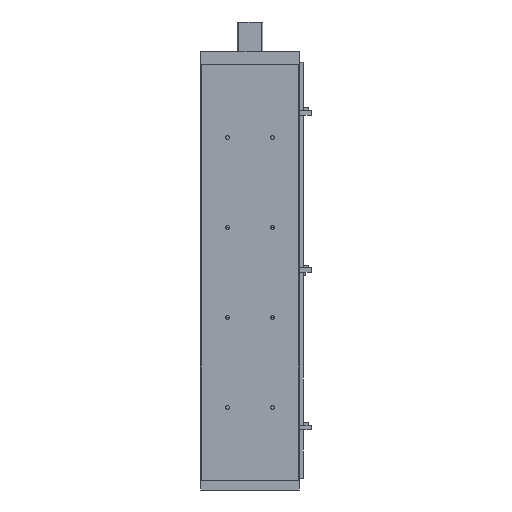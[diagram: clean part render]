
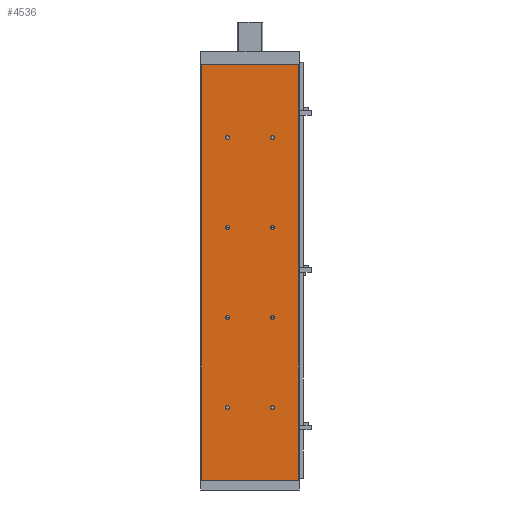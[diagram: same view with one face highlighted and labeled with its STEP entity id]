
A CAD part, front view. The second image highlights one B-rep face of the part: STEP entity #4536.
In plain terms, the highlighted planar face has unit normal (0, -1, 0).
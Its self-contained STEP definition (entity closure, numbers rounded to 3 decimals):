
#3162=CARTESIAN_POINT('',(-107.,0.0,924.0));
#3163=VERTEX_POINT('',#3162);
#3170=CARTESIAN_POINT('',(107.,0.0,924.0));
#3171=VERTEX_POINT('',#3170);
#3172=CARTESIAN_POINT('',(107.,0.0,924.0));
#3173=DIRECTION('',(-1.0,0.0,0.0));
#3174=VECTOR('',#3173,214.);
#3175=LINE('',#3172,#3174);
#3176=EDGE_CURVE('',#3171,#3163,#3175,.T.);
#3506=CARTESIAN_POINT('',(107.,0.0,0.0));
#3507=VERTEX_POINT('',#3506);
#3514=CARTESIAN_POINT('',(-107.,0.0,0.0));
#3515=VERTEX_POINT('',#3514);
#3516=CARTESIAN_POINT('',(-107.,0.0,0.0));
#3517=DIRECTION('',(1.0,0.0,0.0));
#3518=VECTOR('',#3517,214.);
#3519=LINE('',#3516,#3518);
#3520=EDGE_CURVE('',#3515,#3507,#3519,.T.);
#3557=CARTESIAN_POINT('',(-54.249,0.0,762.));
#3558=VERTEX_POINT('',#3557);
#3559=CARTESIAN_POINT('',(-49.999,0.0,762.));
#3560=DIRECTION('',(0.0,1.0,0.0));
#3561=DIRECTION('',(1.0,0.0,0.0));
#3562=AXIS2_PLACEMENT_3D('',#3559,#3560,#3561);
#3563=CIRCLE('',#3562,4.25);
#3564=EDGE_CURVE('',#3558,#3558,#3563,.T.);
#3736=CARTESIAN_POINT('',(45.751,0.0,762.));
#3737=VERTEX_POINT('',#3736);
#3738=CARTESIAN_POINT('',(50.001,0.0,762.));
#3739=DIRECTION('',(0.0,1.0,0.0));
#3740=DIRECTION('',(1.0,0.0,0.0));
#3741=AXIS2_PLACEMENT_3D('',#3738,#3739,#3740);
#3742=CIRCLE('',#3741,4.25);
#3743=EDGE_CURVE('',#3737,#3737,#3742,.T.);
#3777=CARTESIAN_POINT('',(-54.249,0.0,362.));
#3778=VERTEX_POINT('',#3777);
#3779=CARTESIAN_POINT('',(-49.999,0.0,362.));
#3780=DIRECTION('',(0.0,1.0,0.0));
#3781=DIRECTION('',(1.0,0.0,0.0));
#3782=AXIS2_PLACEMENT_3D('',#3779,#3780,#3781);
#3783=CIRCLE('',#3782,4.25);
#3784=EDGE_CURVE('',#3778,#3778,#3783,.T.);
#3956=CARTESIAN_POINT('',(45.751,0.0,362.));
#3957=VERTEX_POINT('',#3956);
#3958=CARTESIAN_POINT('',(50.001,0.0,362.));
#3959=DIRECTION('',(0.0,1.0,0.0));
#3960=DIRECTION('',(1.0,0.0,0.0));
#3961=AXIS2_PLACEMENT_3D('',#3958,#3959,#3960);
#3962=CIRCLE('',#3961,4.25);
#3963=EDGE_CURVE('',#3957,#3957,#3962,.T.);
#3997=CARTESIAN_POINT('',(-54.249,0.0,162.));
#3998=VERTEX_POINT('',#3997);
#3999=CARTESIAN_POINT('',(-49.999,0.0,162.));
#4000=DIRECTION('',(0.0,1.0,0.0));
#4001=DIRECTION('',(1.0,0.0,0.0));
#4002=AXIS2_PLACEMENT_3D('',#3999,#4000,#4001);
#4003=CIRCLE('',#4002,4.25);
#4004=EDGE_CURVE('',#3998,#3998,#4003,.T.);
#4176=CARTESIAN_POINT('',(45.751,0.0,162.));
#4177=VERTEX_POINT('',#4176);
#4178=CARTESIAN_POINT('',(50.001,0.0,162.));
#4179=DIRECTION('',(0.0,1.0,0.0));
#4180=DIRECTION('',(1.0,0.0,0.0));
#4181=AXIS2_PLACEMENT_3D('',#4178,#4179,#4180);
#4182=CIRCLE('',#4181,4.25);
#4183=EDGE_CURVE('',#4177,#4177,#4182,.T.);
#4286=CARTESIAN_POINT('',(45.751,0.0,562.0));
#4287=VERTEX_POINT('',#4286);
#4288=CARTESIAN_POINT('',(50.001,0.0,562.0));
#4289=DIRECTION('',(0.0,1.0,0.0));
#4290=DIRECTION('',(1.0,0.0,0.0));
#4291=AXIS2_PLACEMENT_3D('',#4288,#4289,#4290);
#4292=CIRCLE('',#4291,4.25);
#4293=EDGE_CURVE('',#4287,#4287,#4292,.T.);
#4396=CARTESIAN_POINT('',(-54.249,0.0,562.0));
#4397=VERTEX_POINT('',#4396);
#4398=CARTESIAN_POINT('',(-49.999,0.0,562.0));
#4399=DIRECTION('',(0.0,1.0,0.0));
#4400=DIRECTION('',(1.0,0.0,0.0));
#4401=AXIS2_PLACEMENT_3D('',#4398,#4399,#4400);
#4402=CIRCLE('',#4401,4.25);
#4403=EDGE_CURVE('',#4397,#4397,#4402,.T.);
#4423=CARTESIAN_POINT('',(107.,0.0,0.0));
#4424=DIRECTION('',(0.0,0.0,1.0));
#4425=VECTOR('',#4424,924.0);
#4426=LINE('',#4423,#4425);
#4427=EDGE_CURVE('',#3507,#3171,#4426,.T.);
#4445=CARTESIAN_POINT('',(-107.,0.0,0.0));
#4446=DIRECTION('',(0.0,0.0,1.0));
#4447=VECTOR('',#4446,924.0);
#4448=LINE('',#4445,#4447);
#4449=EDGE_CURVE('',#3515,#3163,#4448,.T.);
#4501=CARTESIAN_POINT('',(107.,0.0,0.0));
#4502=DIRECTION('',(0.0,-1.0,0.0));
#4503=DIRECTION('',(0.0,0.0,-1.0));
#4504=AXIS2_PLACEMENT_3D('',#4501,#4502,#4503);
#4505=PLANE('',#4504);
#4506=ORIENTED_EDGE('',*,*,#3176,.T.);
#4507=ORIENTED_EDGE('',*,*,#4449,.F.);
#4508=ORIENTED_EDGE('',*,*,#3520,.T.);
#4509=ORIENTED_EDGE('',*,*,#4427,.T.);
#4510=EDGE_LOOP('',(#4506,#4507,#4508,#4509));
#4511=FACE_OUTER_BOUND('',#4510,.T.);
#4512=ORIENTED_EDGE('',*,*,#3564,.T.);
#4513=EDGE_LOOP('',(#4512));
#4514=FACE_BOUND('',#4513,.T.);
#4515=ORIENTED_EDGE('',*,*,#3743,.T.);
#4516=EDGE_LOOP('',(#4515));
#4517=FACE_BOUND('',#4516,.T.);
#4518=ORIENTED_EDGE('',*,*,#3784,.T.);
#4519=EDGE_LOOP('',(#4518));
#4520=FACE_BOUND('',#4519,.T.);
#4521=ORIENTED_EDGE('',*,*,#3963,.T.);
#4522=EDGE_LOOP('',(#4521));
#4523=FACE_BOUND('',#4522,.T.);
#4524=ORIENTED_EDGE('',*,*,#4004,.T.);
#4525=EDGE_LOOP('',(#4524));
#4526=FACE_BOUND('',#4525,.T.);
#4527=ORIENTED_EDGE('',*,*,#4183,.T.);
#4528=EDGE_LOOP('',(#4527));
#4529=FACE_BOUND('',#4528,.T.);
#4530=ORIENTED_EDGE('',*,*,#4293,.T.);
#4531=EDGE_LOOP('',(#4530));
#4532=FACE_BOUND('',#4531,.T.);
#4533=ORIENTED_EDGE('',*,*,#4403,.T.);
#4534=EDGE_LOOP('',(#4533));
#4535=FACE_BOUND('',#4534,.T.);
#4536=ADVANCED_FACE('',(#4511,#4514,#4517,#4520,#4523,#4526,#4529,#4532,#4535),#4505,.T.);
